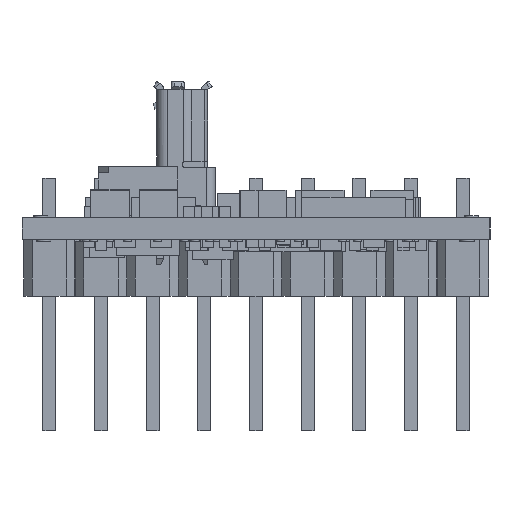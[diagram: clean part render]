
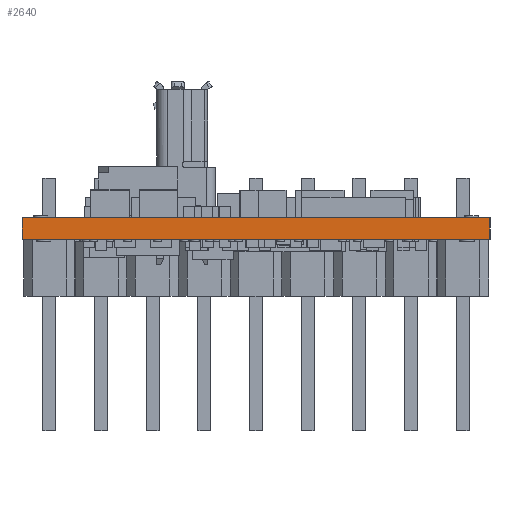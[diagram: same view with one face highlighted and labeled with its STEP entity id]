
A CAD part, left-side view. The second image highlights one B-rep face of the part: STEP entity #2640.
In plain terms, the highlighted planar face has unit normal (-1, 0, 0).
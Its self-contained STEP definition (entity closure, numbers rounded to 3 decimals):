
#411=FACE_OUTER_BOUND('',#18881,.T.);
#2640=ADVANCED_FACE('',(#411),#5071,.T.);
#5071=PLANE('',#43816);
#7988=LINE('',#58728,#12973);
#8428=LINE('',#59887,#13413);
#8689=LINE('',#60625,#13674);
#8690=LINE('',#60626,#13675);
#12973=VECTOR('',#46913,1.);
#13413=VECTOR('',#47575,1.);
#13674=VECTOR('',#47956,1.);
#13675=VECTOR('',#47957,1.);
#18881=EDGE_LOOP('',(#22742,#22743,#22744,#22745));
#22742=ORIENTED_EDGE('',*,*,#38577,.T.);
#22743=ORIENTED_EDGE('',*,*,#37697,.T.);
#22744=ORIENTED_EDGE('',*,*,#38578,.F.);
#22745=ORIENTED_EDGE('',*,*,#38252,.F.);
#33689=VERTEX_POINT('',#58729);
#33690=VERTEX_POINT('',#58730);
#34244=VERTEX_POINT('',#59888);
#34245=VERTEX_POINT('',#59889);
#37697=EDGE_CURVE('',#33689,#33690,#7988,.T.);
#38252=EDGE_CURVE('',#34244,#34245,#8428,.T.);
#38577=EDGE_CURVE('',#34244,#33689,#8689,.T.);
#38578=EDGE_CURVE('',#34245,#33690,#8690,.T.);
#43816=AXIS2_PLACEMENT_3D('',#60627,#47958,#47959);
#46913=DIRECTION('',(0.,1.,0.));
#47575=DIRECTION('',(0.,1.,0.));
#47956=DIRECTION('',(0.,0.,1.));
#47957=DIRECTION('',(0.,0.,1.));
#47958=DIRECTION('',(-1.,0.,0.));
#47959=DIRECTION('',(0.,-1.,0.));
#58728=CARTESIAN_POINT('',(-15.,-11.5,0.));
#58729=CARTESIAN_POINT('',(-15.,-11.5,0.));
#58730=CARTESIAN_POINT('',(-15.,11.5,0.));
#59887=CARTESIAN_POINT('',(-15.,-11.5,-1.066));
#59888=CARTESIAN_POINT('',(-15.,-11.5,-1.066));
#59889=CARTESIAN_POINT('',(-15.,11.5,-1.066));
#60625=CARTESIAN_POINT('',(-15.,-11.5,-1.066));
#60626=CARTESIAN_POINT('',(-15.,11.5,-1.066));
#60627=CARTESIAN_POINT('',(-15.,-11.5,-1.066));
